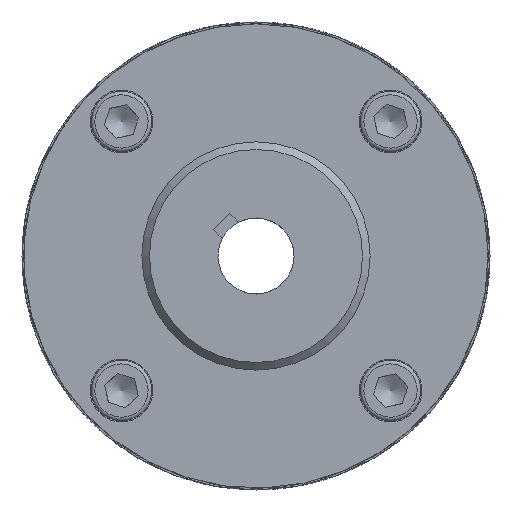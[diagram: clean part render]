
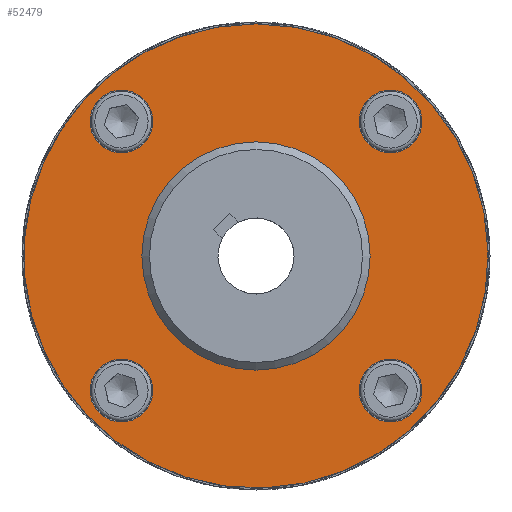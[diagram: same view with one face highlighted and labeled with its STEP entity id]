
A CAD part, left-side view. The second image highlights one B-rep face of the part: STEP entity #52479.
In plain terms, the highlighted planar face has unit normal (-1, 0, 0).
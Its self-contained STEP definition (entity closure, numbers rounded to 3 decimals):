
#3491=FACE_BOUND('',#14710,.T.);
#3492=FACE_BOUND('',#14711,.T.);
#3493=FACE_BOUND('',#14712,.T.);
#3494=FACE_BOUND('',#14713,.T.);
#3495=FACE_BOUND('',#14714,.T.);
#8103=CIRCLE('',#57342,30.);
#8622=CIRCLE('',#60114,61.);
#8623=CIRCLE('',#60115,8.25);
#8624=CIRCLE('',#60116,8.25);
#8625=CIRCLE('',#60117,8.25);
#8626=CIRCLE('',#60118,8.25);
#11750=FACE_OUTER_BOUND('',#14709,.T.);
#14709=EDGE_LOOP('',(#47565));
#14710=EDGE_LOOP('',(#47566));
#14711=EDGE_LOOP('',(#47567));
#14712=EDGE_LOOP('',(#47568));
#14713=EDGE_LOOP('',(#47569));
#14714=EDGE_LOOP('',(#47570));
#22793=VERTEX_POINT('',#92028);
#24628=VERTEX_POINT('',#97545);
#24629=VERTEX_POINT('',#97547);
#24630=VERTEX_POINT('',#97549);
#24631=VERTEX_POINT('',#97551);
#24632=VERTEX_POINT('',#97553);
#29561=EDGE_CURVE('',#22793,#22793,#8103,.T.);
#32298=EDGE_CURVE('',#24628,#24628,#8622,.T.);
#32299=EDGE_CURVE('',#24629,#24629,#8623,.T.);
#32300=EDGE_CURVE('',#24630,#24630,#8624,.T.);
#32301=EDGE_CURVE('',#24631,#24631,#8625,.T.);
#32302=EDGE_CURVE('',#24632,#24632,#8626,.T.);
#47565=ORIENTED_EDGE('',*,*,#32298,.F.);
#47566=ORIENTED_EDGE('',*,*,#32299,.T.);
#47567=ORIENTED_EDGE('',*,*,#32300,.T.);
#47568=ORIENTED_EDGE('',*,*,#32301,.T.);
#47569=ORIENTED_EDGE('',*,*,#32302,.T.);
#47570=ORIENTED_EDGE('',*,*,#29561,.F.);
#49782=PLANE('',#60113);
#52479=ADVANCED_FACE('',(#11750,#3491,#3492,#3493,#3494,#3495),#49782,.F.);
#57342=AXIS2_PLACEMENT_3D('',#92029,#71174,#71175);
#60113=AXIS2_PLACEMENT_3D('',#97544,#77608,#77609);
#60114=AXIS2_PLACEMENT_3D('',#97546,#77610,#77611);
#60115=AXIS2_PLACEMENT_3D('',#97548,#77612,#77613);
#60116=AXIS2_PLACEMENT_3D('',#97550,#77614,#77615);
#60117=AXIS2_PLACEMENT_3D('',#97552,#77616,#77617);
#60118=AXIS2_PLACEMENT_3D('',#97554,#77618,#77619);
#71174=DIRECTION('center_axis',(-1.,0.,0.));
#71175=DIRECTION('ref_axis',(0.,0.,
-1.));
#77608=DIRECTION('center_axis',(1.,0.,0.));
#77609=DIRECTION('ref_axis',(0.,0.,
-1.));
#77610=DIRECTION('center_axis',(1.,0.,0.));
#77611=DIRECTION('ref_axis',(0.,0.,
-1.));
#77612=DIRECTION('center_axis',(1.,0.,0.));
#77613=DIRECTION('ref_axis',(0.,-1.,0.));
#77614=DIRECTION('center_axis',(1.,0.,0.));
#77615=DIRECTION('ref_axis',(0.,0.,
-1.));
#77616=DIRECTION('center_axis',(1.,0.,0.));
#77617=DIRECTION('ref_axis',(0.,1.,0.));
#77618=DIRECTION('center_axis',(1.,0.,0.));
#77619=DIRECTION('ref_axis',(0.,0.,
1.));
#92028=CARTESIAN_POINT('',(-92.,0.,30.));
#92029=CARTESIAN_POINT('Origin',(-92.,0.,0.));
#97544=CARTESIAN_POINT('Origin',(-92.,0.,0.));
#97545=CARTESIAN_POINT('',(-92.,0.,61.));
#97546=CARTESIAN_POINT('Origin',(-92.,0.,0.));
#97547=CARTESIAN_POINT('',(-92.,27.105,35.355));
#97548=CARTESIAN_POINT('Origin',(-92.,35.355,35.355));
#97549=CARTESIAN_POINT('',(-92.,-35.355,27.105));
#97550=CARTESIAN_POINT('Origin',(-92.,-35.355,35.355));
#97551=CARTESIAN_POINT('',(-92.,-27.105,-35.355));
#97552=CARTESIAN_POINT('Origin',(-92.,-35.355,-35.355));
#97553=CARTESIAN_POINT('',(-92.,35.355,-27.105));
#97554=CARTESIAN_POINT('Origin',(-92.,35.355,-35.355));
